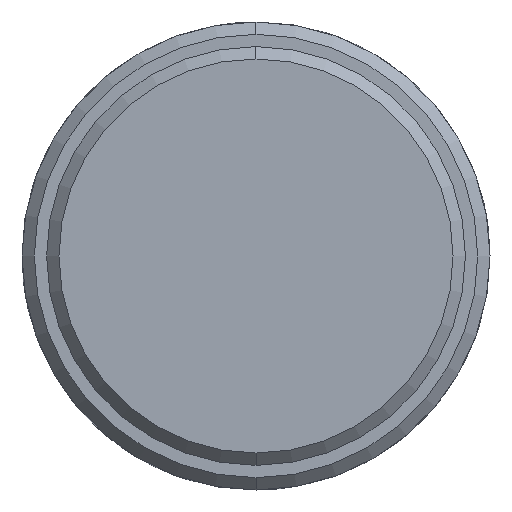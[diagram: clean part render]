
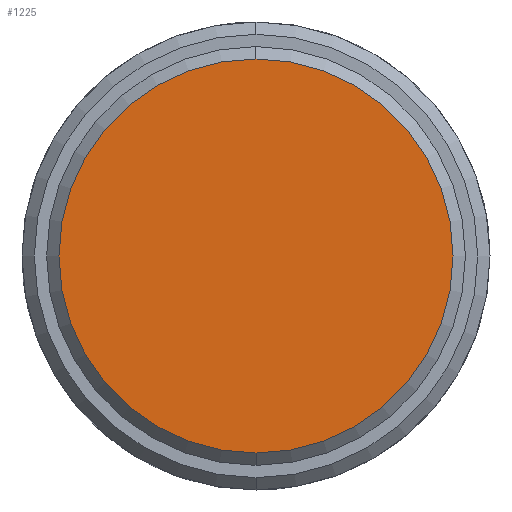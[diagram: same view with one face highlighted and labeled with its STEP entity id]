
A CAD part, left-side view. The second image highlights one B-rep face of the part: STEP entity #1225.
In plain terms, the highlighted planar face has unit normal (-1, 0, 0).
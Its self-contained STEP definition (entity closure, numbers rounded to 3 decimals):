
#1157=CARTESIAN_POINT('Vertex',(-17.,0.,-16.)) ;
#1160=CARTESIAN_POINT('Axis2P3D Location',(-17.,0.,0.)) ;
#1164=CARTESIAN_POINT('Vertex',(-17.,16.,0.)) ;
#1167=CARTESIAN_POINT('Axis2P3D Location',(-17.,0.,0.)) ;
#1171=CARTESIAN_POINT('Vertex',(-17.,0.,16.)) ;
#1193=CARTESIAN_POINT('Axis2P3D Location',(-17.,0.,0.)) ;
#1197=CARTESIAN_POINT('Vertex',(-17.,-16.,0.)) ;
#1200=CARTESIAN_POINT('Axis2P3D Location',(-17.,0.,0.)) ;
#1214=CARTESIAN_POINT('Axis2P3D Location',(-17.,0.,0.)) ;
#1161=DIRECTION('Axis2P3D Direction',(1.,0.,-0.)) ;
#1168=DIRECTION('Axis2P3D Direction',(1.,0.,-0.)) ;
#1194=DIRECTION('Axis2P3D Direction',(1.,0.,-0.)) ;
#1201=DIRECTION('Axis2P3D Direction',(1.,0.,-0.)) ;
#1215=DIRECTION('Axis2P3D Direction',(1.,0.,-0.)) ;
#1216=DIRECTION('Axis2P3D XDirection',(-0.,0.,-1.)) ;
#1162=AXIS2_PLACEMENT_3D('Circle Axis2P3D',#1160,#1161,$) ;
#1169=AXIS2_PLACEMENT_3D('Circle Axis2P3D',#1167,#1168,$) ;
#1195=AXIS2_PLACEMENT_3D('Circle Axis2P3D',#1193,#1194,$) ;
#1202=AXIS2_PLACEMENT_3D('Circle Axis2P3D',#1200,#1201,$) ;
#1217=AXIS2_PLACEMENT_3D('Plane Axis2P3D',#1214,#1215,#1216) ;
#1220=ORIENTED_EDGE('',*,*,#1166,.F.) ;
#1221=ORIENTED_EDGE('',*,*,#1204,.F.) ;
#1222=ORIENTED_EDGE('',*,*,#1199,.F.) ;
#1223=ORIENTED_EDGE('',*,*,#1173,.F.) ;
#1225=ADVANCED_FACE('357-25X66X100',(#1224),#1218,.F.) ;
#1163=CIRCLE('generated circle',#1162,16.) ;
#1170=CIRCLE('generated circle',#1169,16.) ;
#1196=CIRCLE('generated circle',#1195,16.) ;
#1203=CIRCLE('generated circle',#1202,16.) ;
#1166=EDGE_CURVE('',#1158,#1165,#1163,.T.) ;
#1173=EDGE_CURVE('',#1165,#1172,#1170,.T.) ;
#1199=EDGE_CURVE('',#1172,#1198,#1196,.T.) ;
#1204=EDGE_CURVE('',#1198,#1158,#1203,.T.) ;
#1219=EDGE_LOOP('',(#1220,#1221,#1222,#1223)) ;
#1224=FACE_OUTER_BOUND('',#1219,.T.) ;
#1218=PLANE('Plane',#1217) ;
#1158=VERTEX_POINT('',#1157) ;
#1165=VERTEX_POINT('',#1164) ;
#1172=VERTEX_POINT('',#1171) ;
#1198=VERTEX_POINT('',#1197) ;
